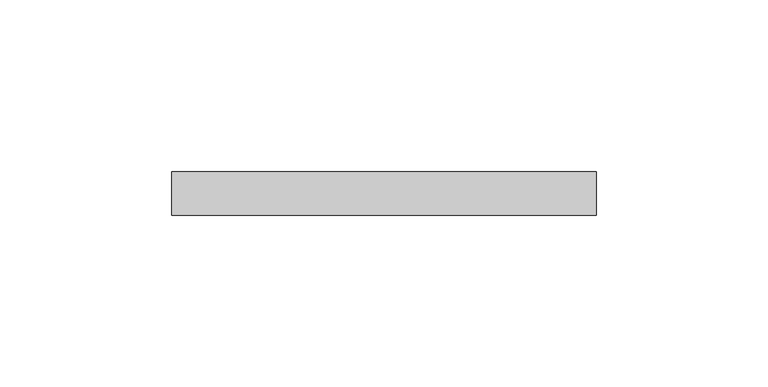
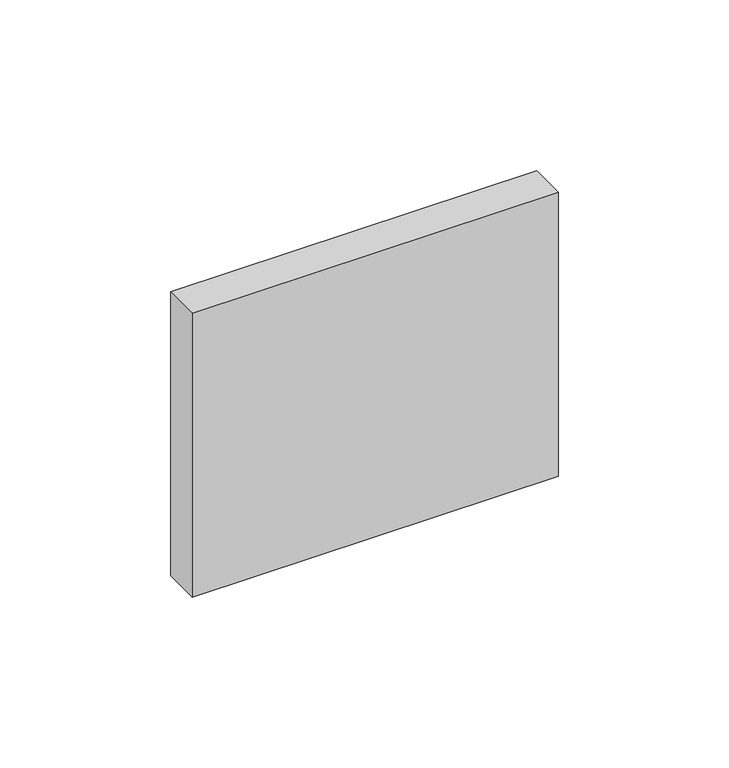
"""IFC4 building model written with IfcOpenShell, lengths in millimetres: proxy geometry, GRADIENT^TABLE 5_PRISM BASE-POWER LID."""

from ifc_helpers import new_model, si_unit, origin, origin_with_axes, place, context, project, spatial, polyline, outline, extrude, source, transform, mapped, element, save


def generic_models_47bde63c(model_context):
    return source(origin(), model_context, "Body", "SweptSolid", [
        extrude(outline(polyline([(123.825, 0.0), (0.0, 0.0), (0.0, 12.7), (123.825, 12.7), (123.825, 0.0)])), origin_with_axes(), (0.0, 0.0, 1.0), 101.6),
    ])


if __name__ == "__main__":
    model = new_model("IFC4")
    model_context = context("Model", 3, world=origin())
    ifc_project = project(units=[si_unit("LENGTHUNIT", "METRE", prefix="MILLI")], contexts=[model_context])
    site = spatial("IfcSite", under=ifc_project)
    building = spatial("IfcBuilding", under=site)
    placement = place(None, origin())
    generic_models_shape = generic_models_47bde63c(model_context)
    element("IfcBuildingElementProxy", 1, Name="GRADIENT^TABLE 5_PRISM BASE-POWER LID", ObjectType="GRADIENT^TABLE 5_PRISM BASE-POWER LID", at=placement, inside=building, context=model_context, shape_type="MappedRepresentation", body=[
        mapped(generic_models_shape, transform((0.0, 0.0, 0.0), x_axis=(1.0, 0.0, 0.0), y_axis=(0.0, 1.0, 0.0), z_axis=(0.0, 0.0, 1.0))),
    ])
    save(model, "model.ifc")
